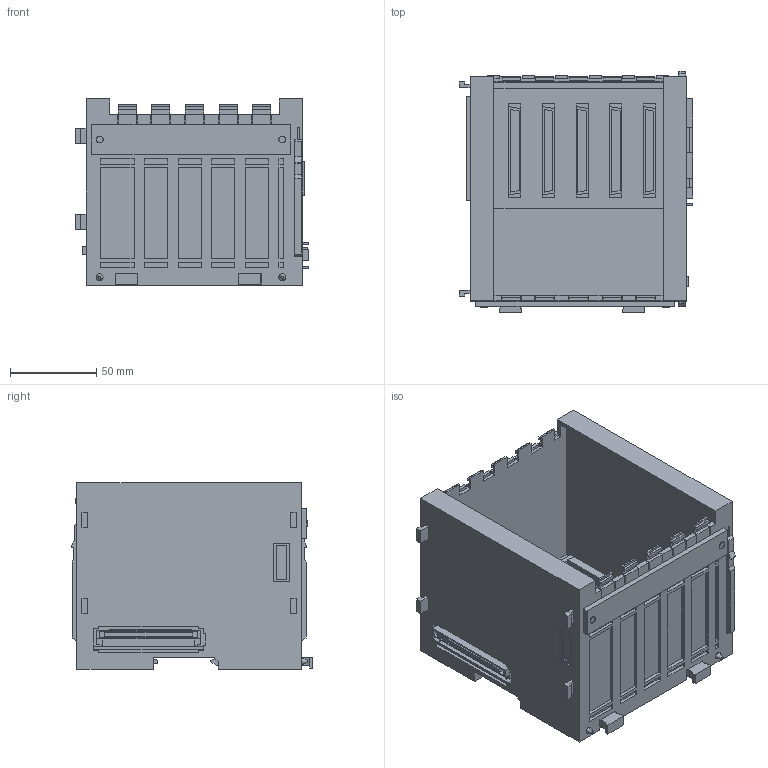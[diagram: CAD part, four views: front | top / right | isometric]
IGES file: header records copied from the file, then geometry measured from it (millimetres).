
Start section: SolidWorks IGES file using analytic representation for surfaces
Global section: file name: D:\YASKAWA\jepmc_bub3005_e.IGS; native system: SolidWorks 2006 by SolidWorks Corporation; preprocessor: SolidWorks 2006 by SolidWorks Corporation; author: yamanouchi; date: 120821.132654; units: millimetre
Bounding box: 135.2 x 140 x 108 mm (x, y, z)
Surface area: 162124 mm2 (no closed solid volume)
Topology: 0 solids, 0 shells, 797 faces, 4544 edges, 4544 vertices
Faces by surface type: bspline 785, revolution 12
